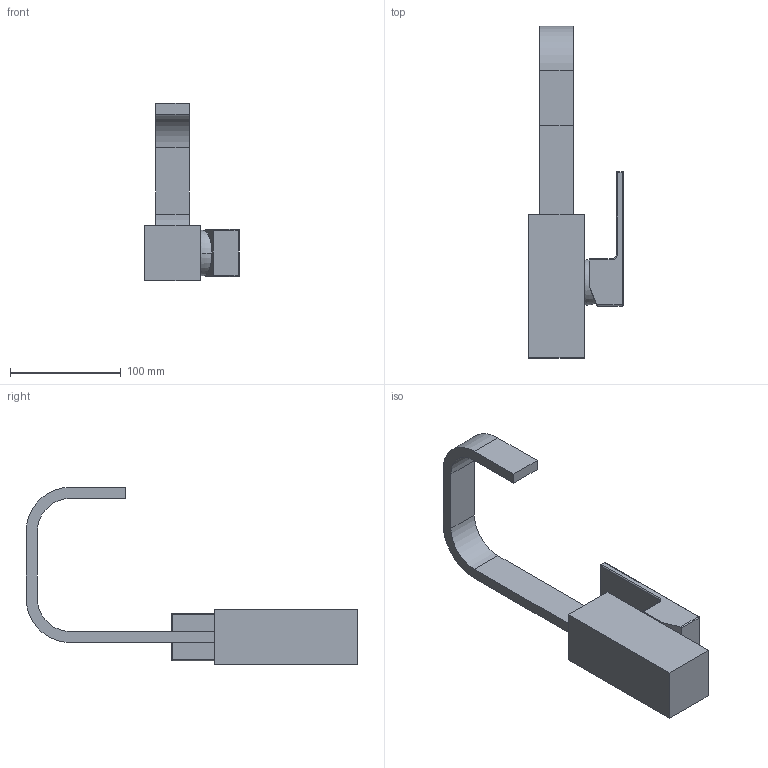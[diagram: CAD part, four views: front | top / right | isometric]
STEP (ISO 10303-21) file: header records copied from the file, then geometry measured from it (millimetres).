
FILE_DESCRIPTION(('CoCreate Modeling STEP Export'),'2;1');
FILE_NAME('84.250R.stp','2012-05-30T13:43:53',(''),(''),'CoCreate Modeling STEP processor for AP214 (Solid Model)','CoCreate Modeling 17.0 01-Apr-2010 (C) Parametric Technology GmbH','');
FILE_SCHEMA(('AUTOMOTIVE_DESIGN { 1 0 10303 214 1 1 1 1 }'));
Length unit declared in the file: millimetre
Products named in the file (1): 572
Bounding box: 85.2 x 299 x 160 mm (x, y, z)
Volume: 507501.6 mm3; surface area: 72772.9 mm2
Topology: 1 solids, 1 shells, 54 faces, 132 edges, 76 vertices
Faces by surface type: plane 24, cylinder 18, torus 6, sphere 6
Entity records: 1716 total; most frequent: CARTESIAN_POINT 454, DIRECTION 269, ORIENTED_EDGE 252, EDGE_CURVE 126, AXIS2_PLACEMENT_3D 97, VERTEX_POINT 76, VECTOR 75, LINE 75
